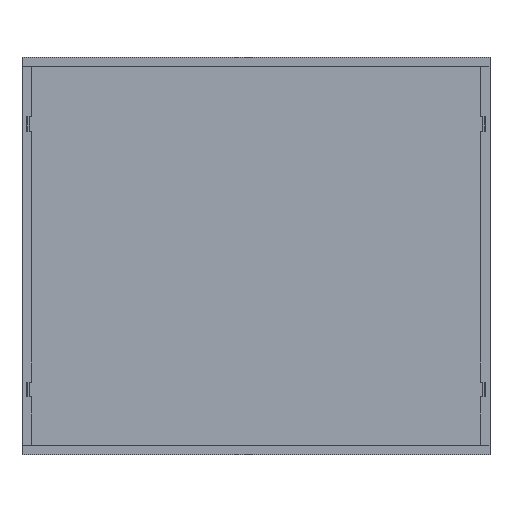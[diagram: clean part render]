
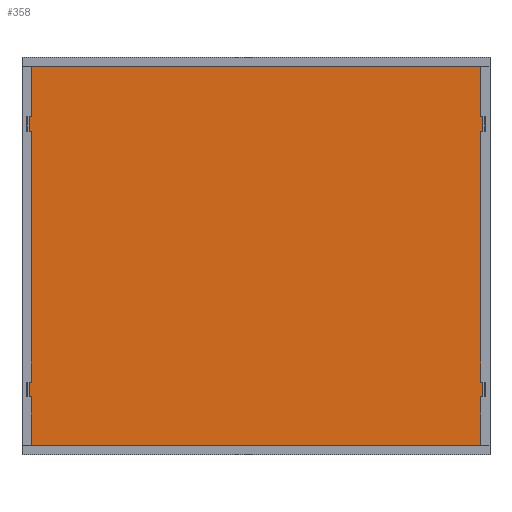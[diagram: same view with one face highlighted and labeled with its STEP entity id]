
A CAD part, front view. The second image highlights one B-rep face of the part: STEP entity #358.
In plain terms, the highlighted planar face has unit normal (0, -1, 0).
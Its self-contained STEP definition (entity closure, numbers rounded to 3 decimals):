
#358=ADVANCED_FACE('',(#556),#2980,.T.);
#556=FACE_OUTER_BOUND('',#754,.T.);
#754=EDGE_LOOP('',(#1027,#1028,#1029,#1030));
#1027=ORIENTED_EDGE('',*,*,#1937,.T.);
#1028=ORIENTED_EDGE('',*,*,#1930,.T.);
#1029=ORIENTED_EDGE('',*,*,#1938,.F.);
#1030=ORIENTED_EDGE('',*,*,#1935,.F.);
#1930=EDGE_CURVE('',#2669,#2672,#2398,.T.);
#1935=EDGE_CURVE('',#2675,#2676,#2403,.T.);
#1937=EDGE_CURVE('',#2675,#2669,#2405,.T.);
#1938=EDGE_CURVE('',#2676,#2672,#2406,.T.);
#2398=B_SPLINE_CURVE_WITH_KNOTS('',1,(#3479,#3480),.UNSPECIFIED.,.F.,.F.,
(2,2),(0.,940.997),.UNSPECIFIED.);
#2403=B_SPLINE_CURVE_WITH_KNOTS('',1,(#3489,#3490),.UNSPECIFIED.,.F.,.F.,
(2,2),(0.,940.997),.UNSPECIFIED.);
#2405=B_SPLINE_CURVE_WITH_KNOTS('',1,(#3493,#3494),.UNSPECIFIED.,.F.,.F.,
(2,2),(781.2,1555.2),.UNSPECIFIED.);
#2406=B_SPLINE_CURVE_WITH_KNOTS('',1,(#3495,#3496),.UNSPECIFIED.,.F.,.F.,
(2,2),(781.2,1555.2),.UNSPECIFIED.);
#2669=VERTEX_POINT('',#3465);
#2672=VERTEX_POINT('',#3468);
#2675=VERTEX_POINT('',#3471);
#2676=VERTEX_POINT('',#3472);
#2980=PLANE('',#3129);
#3129=AXIS2_PLACEMENT_3D('',#3462,#3262,$);
#3262=DIRECTION('',(0.,-1.,0.));
#3462=CARTESIAN_POINT('',(-13.,5.,667.013));
#3465=CARTESIAN_POINT('',(-787.,5.,667.013));
#3468=CARTESIAN_POINT('',(-787.,5.,12.987));
#3471=CARTESIAN_POINT('',(-13.,5.,667.013));
#3472=CARTESIAN_POINT('',(-13.,5.,12.987));
#3479=CARTESIAN_POINT('',(-787.,5.,667.013));
#3480=CARTESIAN_POINT('',(-787.,5.,12.987));
#3489=CARTESIAN_POINT('',(-13.,5.,667.013));
#3490=CARTESIAN_POINT('',(-13.,5.,12.987));
#3493=CARTESIAN_POINT('',(-13.,5.,667.013));
#3494=CARTESIAN_POINT('',(-787.,5.,667.013));
#3495=CARTESIAN_POINT('',(-13.,5.,12.987));
#3496=CARTESIAN_POINT('',(-787.,5.,12.987));
